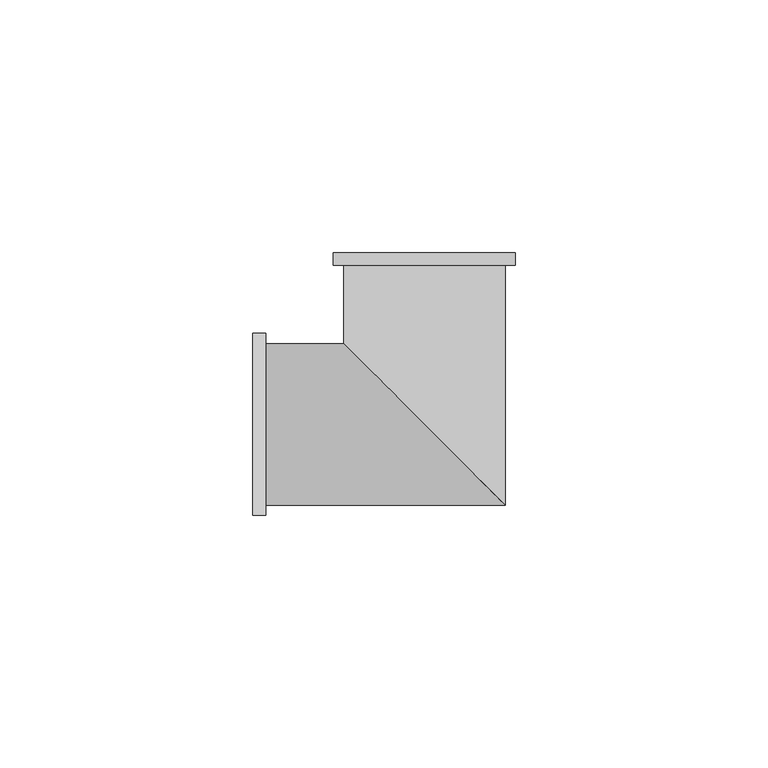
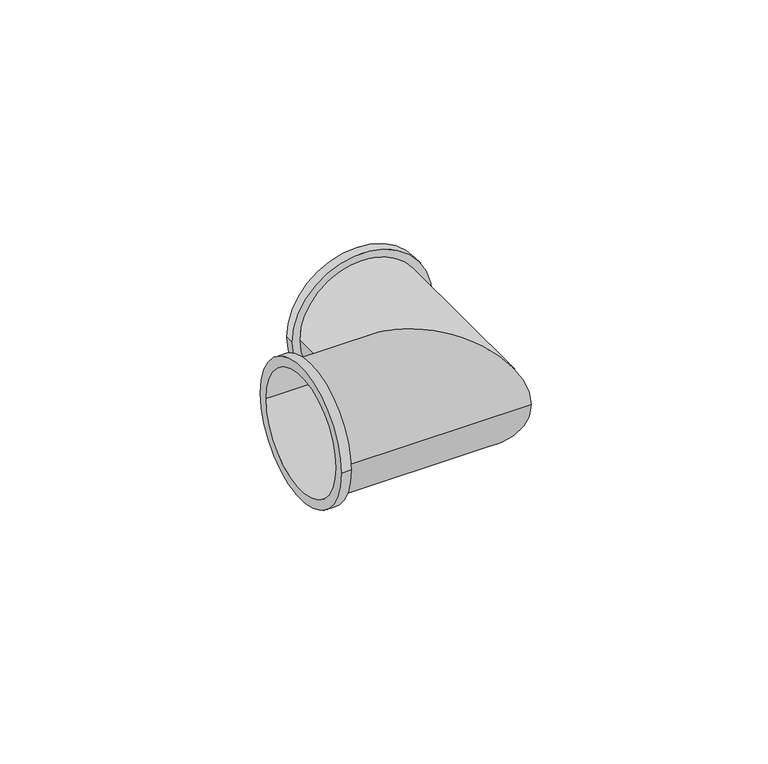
"""IFC4 building model written with IfcOpenShell, lengths in millimetres: pipe fitting geometry, БИР ПЕКС_КМП_Угольник ПЕКС : Угольник ПЕКС_КМП."""

from ifc_helpers import new_model, si_unit, frame, origin, place, context, project, spatial, polyline, circle_curve, ellipse_curve, source, transform, mapped, element, save
from ifc_brep_helpers import plane_surface, cylinder_surface, revolved_surface, advanced_brep


def pipe_fitting_0a08baca(model_context):
    return source(origin(), model_context, "Body", "AdvancedBrep", [
        advanced_brep(
        [(-34.0, -18.0, 0.0), (-34.0, 18.0, 0.0), (-34.0, -15.5, 0.0), (-34.0, 15.5, 0.0), (16.0, -16.0, 0.0), (-16.0, 16.0, 0.0), (-31.4507177, 16.0, 0.0), (-31.4507177, -16.0, 0.0), (-18.0, 34.0, 0.0), (18.0, 34.0, 0.0), (15.5, 34.0, 0.0), (-15.5, 34.0, 0.0), (16.0, 31.5, 0.0), (-16.0, 31.5, 0.0), (-31.4507177, -18.0, 0.0), (-31.4507177, 18.0, 0.0), (-18.0, 31.5, 0.0), (18.0, 31.5, 0.0), (-31.4507177, -15.5, 0.0), (15.5, -15.5, 0.0), (-15.5, 15.5, 0.0), (-31.4507177, 15.5, 0.0), (-15.5, 31.5, 0.0), (15.5, 31.5, 0.0)],
        [
            (0, 1, circle_curve(frame((-34.0, 0.0, 0.0), z_axis=(-1.0, 0.0, 0.0), x_axis=(0.0, 1.0, 0.0)), 18.0)),
            (1, 0, circle_curve(frame((-34.0, 0.0, 0.0), z_axis=(-1.0, 0.0, 0.0), x_axis=(0.0, 1.0, 0.0)), 18.0)),
            (2, 3, circle_curve(frame((-34.0, 0.0, 0.0), z_axis=(1.0, 0.0, 0.0), x_axis=(0.0, 1.0, 0.0)), 15.5)),
            (3, 2, circle_curve(frame((-34.0, 0.0, 0.0), z_axis=(1.0, 0.0, 0.0), x_axis=(0.0, 1.0, 0.0)), 15.5)),
            (4, 5, ellipse_curve(frame((0.0, 0.0, 0.0), z_axis=(-0.7071067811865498, -0.7071067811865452, 0.0), x_axis=(-0.7071067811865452, 0.7071067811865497, 0.0)), 22.627417, 16.0)),
            (5, 6),
            (6, 7, circle_curve(frame((-31.4507177, 0.0, 0.0), z_axis=(1.0, 0.0, 0.0), x_axis=(0.0, 1.0, 0.0)), 16.0)),
            (7, 4),
            (5, 4, ellipse_curve(frame((0.0, 0.0, 0.0), z_axis=(-0.7071067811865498, -0.7071067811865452, 0.0), x_axis=(-0.7071067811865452, 0.7071067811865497, 0.0)), 22.627417, 16.0)),
            (7, 6, circle_curve(frame((-31.4507177, 0.0, 0.0), z_axis=(1.0, 0.0, 0.0), x_axis=(0.0, 1.0, 0.0)), 16.0)),
            (8, 9, circle_curve(frame((0.0, 34.0, 0.0), z_axis=(0.0, 1.0, 0.0), x_axis=(1.0, 0.0, 0.0)), 18.0)),
            (9, 8, circle_curve(frame((0.0, 34.0, 0.0), z_axis=(0.0, 1.0, 0.0), x_axis=(1.0, 0.0, 0.0)), 18.0)),
            (10, 11, circle_curve(frame((0.0, 34.0, 0.0), z_axis=(0.0, -1.0, 0.0), x_axis=(-1.0, 0.0, 0.0)), 15.5)),
            (11, 10, circle_curve(frame((0.0, 34.0, 0.0), z_axis=(0.0, -1.0, 0.0), x_axis=(-1.0, 0.0, 0.0)), 15.5)),
            (4, 12),
            (12, 13, circle_curve(frame((0.0, 31.5, 0.0), z_axis=(0.0, -1.0, 0.0), x_axis=(-1.0, 0.0, 0.0)), 16.0)),
            (13, 5),
            (13, 12, circle_curve(frame((0.0, 31.5, 0.0), z_axis=(0.0, -1.0, 0.0), x_axis=(-1.0, 0.0, 0.0)), 16.0)),
            (14, 15, circle_curve(frame((-31.4507177, 0.0, 0.0), z_axis=(1.0, 0.0, 0.0), x_axis=(0.0, 1.0, 0.0)), 18.0)),
            (15, 14, circle_curve(frame((-31.4507177, 0.0, 0.0), z_axis=(1.0, 0.0, 0.0), x_axis=(0.0, 1.0, 0.0)), 18.0)),
            (14, 0),
            (1, 15),
            (16, 17, circle_curve(frame((0.0, 31.5, 0.0), z_axis=(0.0, -1.0, 0.0), x_axis=(1.0, 0.0, 0.0)), 18.0)),
            (17, 16, circle_curve(frame((0.0, 31.5, 0.0), z_axis=(0.0, -1.0, 0.0), x_axis=(1.0, 0.0, 0.0)), 18.0)),
            (16, 8),
            (9, 17),
            (2, 18),
            (18, 19),
            (19, 20, ellipse_curve(frame((0.0, 0.0, 0.0), z_axis=(0.7071067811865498, 0.7071067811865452, 0.0), x_axis=(0.7071067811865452, -0.7071067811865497, 0.0)), 21.9203102, 15.5)),
            (20, 21),
            (21, 3),
            (20, 19, ellipse_curve(frame((0.0, 0.0, 0.0), z_axis=(0.7071067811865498, 0.7071067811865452, 0.0), x_axis=(0.7071067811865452, -0.7071067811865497, 0.0)), 21.9203102, 15.5)),
            (11, 22),
            (22, 20),
            (19, 23),
            (23, 10),
        ],
        [
            plane_surface(frame((-34.0, 0.0, 0.0), z_axis=(-1.0, 0.0, 0.0), x_axis=(0.0, 0.0, 1.0))),
            cylinder_surface(frame((-34.0, 0.0, 0.0), z_axis=(-1.0, 0.0, 0.0), x_axis=(0.0, 1.0, 0.0)), 16.0),
            plane_surface(frame((0.0, 34.0, 0.0), z_axis=(0.0, 1.0, 0.0), x_axis=(0.0, 0.0, 1.0))),
            cylinder_surface(frame((0.0, 0.0, 0.0), z_axis=(0.0, -1.0, 0.0), x_axis=(-1.0, 0.0, 0.0)), 16.0),
            plane_surface(frame((-31.4507177, 18.0, 0.0), z_axis=(1.0, 0.0, 0.0), x_axis=(0.0, 0.0, 1.0))),
            cylinder_surface(frame((-34.0, 0.0, 0.0), z_axis=(1.0, 0.0, 0.0), x_axis=(0.0, 1.0, 0.0)), 18.0),
            plane_surface(frame((18.0, 31.5, 0.0), z_axis=(0.0, -1.0, 0.0), x_axis=(0.0, 0.0, 1.0))),
            cylinder_surface(frame((0.0, 34.0, 0.0), z_axis=(0.0, -1.0, 0.0), x_axis=(1.0, 0.0, 0.0)), 18.0),
            revolved_surface(polyline([(15.5, 15.5, 0.0), (-34.0, 15.5, 0.0)]), (-34.0, 0.0, 0.0), (1.0, 0.0, 0.0)),
            revolved_surface(polyline([(-15.5, 34.0, 0.0), (-15.5, -15.5, 0.0)]), (0.0, 0.0, 0.0), (0.0, 1.0, 0.0)),
        ],
        [
            (0, [[1, 2], [3, 4]]),
            (1, [[5, 6, 7, 8]]),
            (1, [[9, -8, 10, -6]]),
            (2, [[11, 12], [13, 14]]),
            (3, [[-5, 15, 16, 17]]),
            (3, [[-9, -17, 18, -15]]),
            (4, [[19, 20], [-7, -10]]),
            (5, [[-19, 21, -2, 22]]),
            (5, [[-20, -22, -1, -21]]),
            (6, [[23, 24], [-16, -18]]),
            (7, [[-23, 25, -12, 26]]),
            (7, [[-24, -26, -11, -25]]),
            (8, [[-3, 27, 28, 29, 30, 31]]),
            (8, [[-4, -31, -30, 32, -28, -27]]),
            (9, [[-14, 33, 34, -29, 35, 36]]),
            (9, [[-13, -36, -35, -32, -34, -33]]),
        ],
    ),
    ])


if __name__ == "__main__":
    model = new_model("IFC4")
    model_context = context("Model", 3, world=origin())
    ifc_project = project(units=[si_unit("LENGTHUNIT", "METRE", prefix="MILLI")], contexts=[model_context])
    site = spatial("IfcSite", under=ifc_project)
    building = spatial("IfcBuilding", under=site)
    placement = place(None, origin())
    pipe_fitting_shape = pipe_fitting_0a08baca(model_context)
    element("IfcPipeFitting", 1, ObjectType="БИР ПЕКС_КМП_Угольник ПЕКС : Угольник ПЕКС_КМП", at=placement, inside=building, context=model_context, shape_type="MappedRepresentation", body=[
        mapped(pipe_fitting_shape, transform((0.0, 0.0, 0.0), x_axis=(1.0, 0.0, 0.0), y_axis=(0.0, 1.0, 0.0), z_axis=(0.0, 0.0, 1.0))),
    ])
    save(model, "model.ifc")
